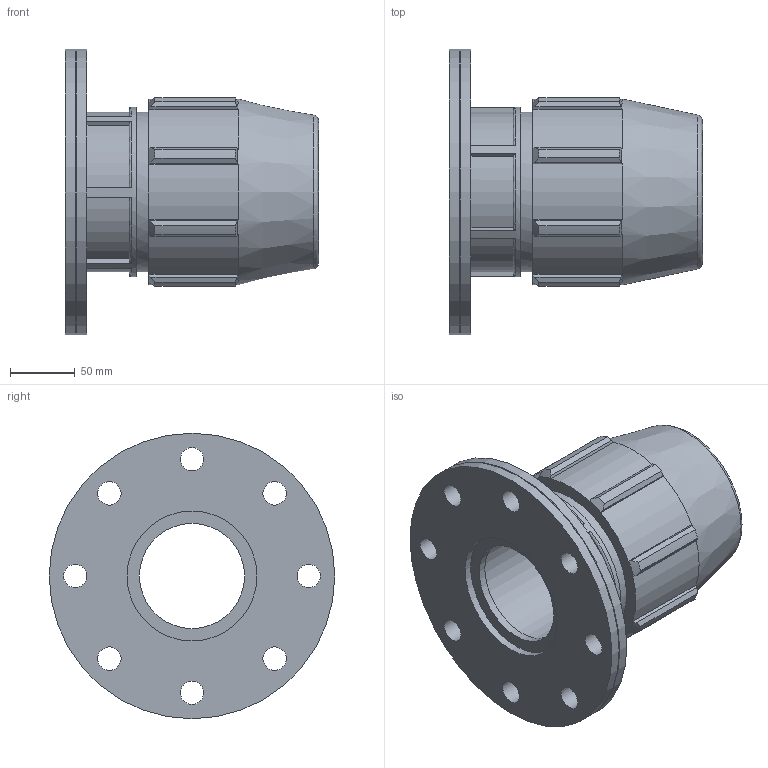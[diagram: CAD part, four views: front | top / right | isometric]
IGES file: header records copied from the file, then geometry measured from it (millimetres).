
Global section: file name: 0722060900400A.ipt; native system: Autodesk Inventor 2015; preprocessor: unknown; author: KIM; date: 20170608.042628; units: millimetre
Bounding box: 195 x 220 x 220 mm (x, y, z)
Volume: 1848823.8 mm3; surface area: 231620.4 mm2
Topology: 1 solids, 1 shells, 131 faces, 373 edges, 251 vertices
Faces by surface type: plane 59, cylinder 26, revolution 25, cone 21
Full cylindrical faces by diameter (mm): 123.2 x1, 130.9 x1, 220 x2
